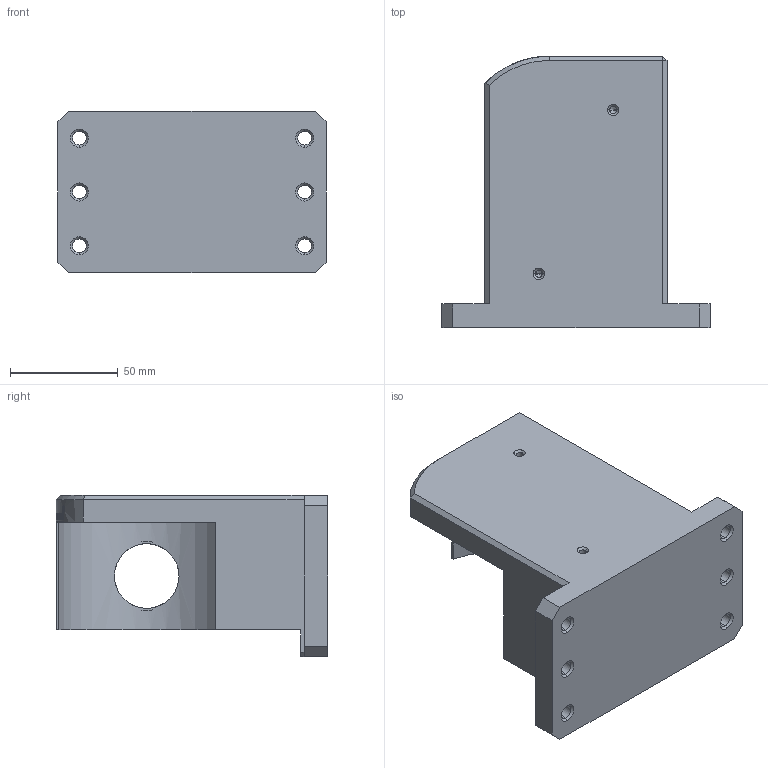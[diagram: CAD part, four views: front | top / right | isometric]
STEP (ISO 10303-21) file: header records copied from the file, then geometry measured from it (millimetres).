
FILE_DESCRIPTION (( 'STEP AP214' ), '1' );
FILE_NAME ('TPP_LS-01-01-001.STEP', '2021-01-11T09:24:18', ( '' ), ( '' ), 'SwSTEP 2.0', 'SolidWorks 2019', '' );
FILE_SCHEMA (( 'AUTOMOTIVE_DESIGN' ));
Length unit declared in the file: millimetre
Products named in the file (1): TPP_LS-01-01-001
Bounding box: 124.5 x 126 x 75 mm (x, y, z)
Volume: 418947.4 mm3; surface area: 60978.4 mm2
Topology: 1 solids, 1 shells, 460 faces, 1190 edges, 768 vertices
Faces by surface type: bspline 168, plane 155, cylinder 88, cone 45, torus 4
Entity records: 20768 total; most frequent: CARTESIAN_POINT 10746, ORIENTED_EDGE 2352, DIRECTION 1494, EDGE_CURVE 1176, VERTEX_POINT 768, AXIS2_PLACEMENT_3D 576, B_SPLINE_CURVE_WITH_KNOTS 551, EDGE_LOOP 524
